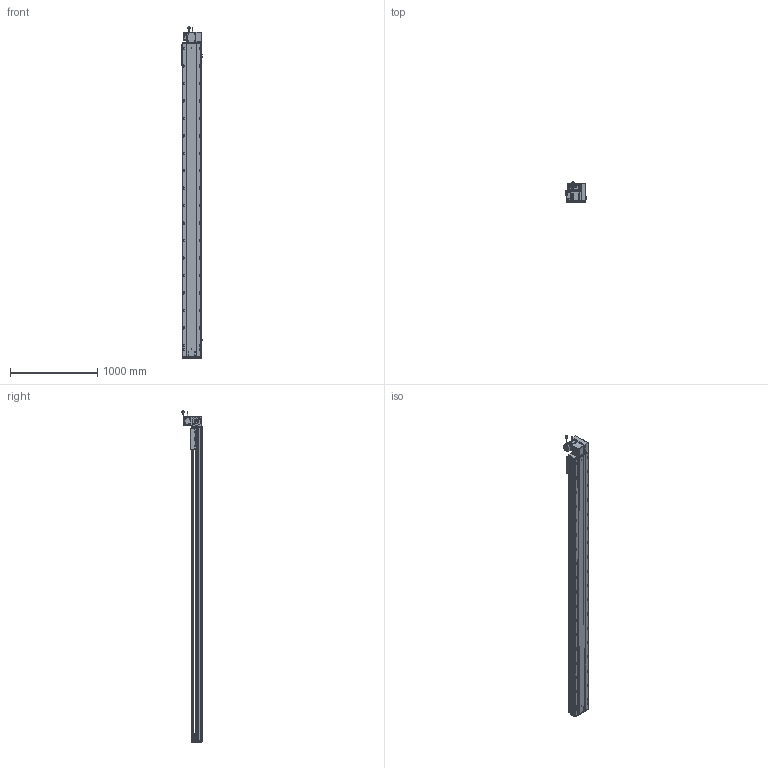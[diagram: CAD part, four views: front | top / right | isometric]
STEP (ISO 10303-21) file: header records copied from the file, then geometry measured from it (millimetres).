
FILE_DESCRIPTION (( 'STEP AP203' ), '1' );
FILE_NAME ('RY220-T-300-UR.SLDASM_3250.step', '2022-07-25T08:46:32', ( '' ), ( '' ), 'SwSTEP 2.0', 'SolidWorks 2016', '' );
FILE_SCHEMA (( 'CONFIG_CONTROL_DESIGN' ));
Length unit declared in the file: millimetre
Products named in the file (14): RY220圉猾敕々湍臏賑輸; 覜茼ん672; RY220-俋离672覜茼んえ; RY220-T-300-奻裔啣_3250; RY220-T-蛌殏萇儂假蚾啣(750W); RY220翋肮祭謫釱; RY220-T-湍謫欶(鍼踢); RY220-同步轮副支撑座6304×2; RY220翋肮祭謫裔啣; RY220-T菁釱-300_3250; 滅袉蝶18-15; RY220-T-300-UR.SLDASM_3250; 怢湛750W_ECMA-CX0807ES; 110A-T-肮祭謫釱傷裔
Assembly tree (18 placements, depth 2):
  RY220-T-300-UR.SLDASM_3250
    RY220-T菁釱-300_3250
    RY220翋肮祭謫釱
    覜茼ん672  x3
    RY220圉猾敕々湍臏賑輸
    RY220-T-300-奻裔啣_3250
    RY220-俋离672覜茼んえ
    滅袉蝶18-15  x3
    RY220翋肮祭謫裔啣  x2
    110A-T-肮祭謫釱傷裔
    怢湛750W_ECMA-CX0807ES
    RY220-T-湍謫欶(鍼踢)
    RY220-T-蛌殏萇儂假蚾啣(750W)
    RY220-同步轮副支撑座6304×2
Bounding box: 238.7 x 231.74 x 3803.27 mm (x, y, z)
Volume: 26817909.6 mm3; surface area: 8327128.1 mm2
Topology: 19 solids, 19 shells, 3088 faces, 8551 edges, 5344 vertices
Faces by surface type: cylinder 1540, plane 1069, cone 397, bspline 56, sphere 16, torus 10
Entity records: 103139 total; most frequent: CARTESIAN_POINT 29063, ORIENTED_EDGE 15290, DIRECTION 14820, EDGE_CURVE 7645, AXIS2_PLACEMENT_3D 5370, VERTEX_POINT 4968, LINE 4080, VECTOR 4080
